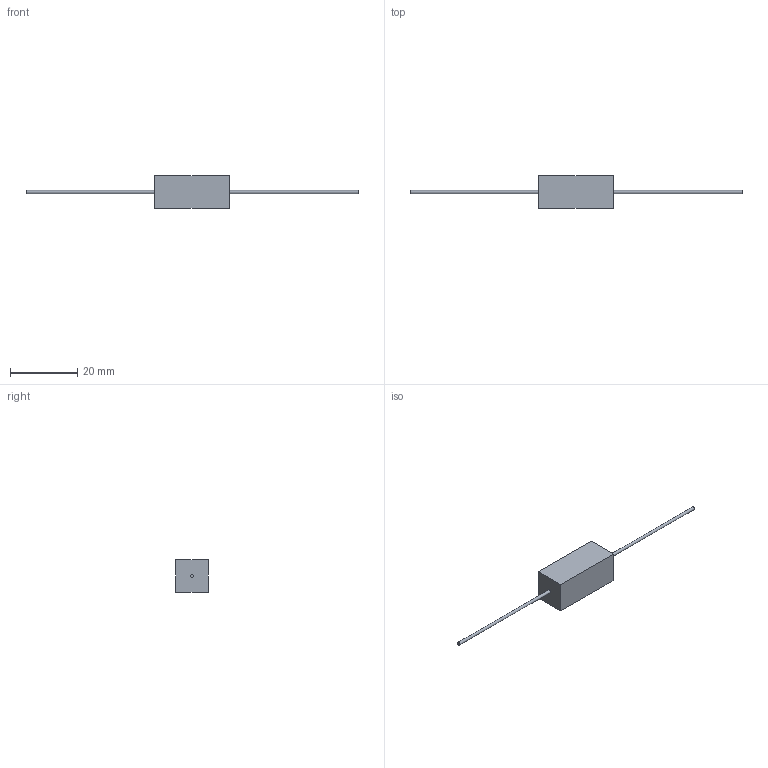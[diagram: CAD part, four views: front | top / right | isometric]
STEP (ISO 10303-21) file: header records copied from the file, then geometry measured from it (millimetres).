
FILE_DESCRIPTION(/* description */ (''),/* implementation_level */ '2;1');
FILE_NAME(/* name */ 'C:\Users\mulla\Documents\SEI Models\Inventor Files\WCB_WCBF_NWCB\WCB5_stp.stp',/* time_stamp */ '2019-07-04T16:17:29-04:00',/* author */ ('mulla'),/* organization */ (''),/* preprocessor_version */ 'ST-DEVELOPER v16.1',/* originating_system */ 'Autodesk Inventor 2016',/* authorisation */ '');
FILE_SCHEMA (('AUTOMOTIVE_DESIGN { 1 0 10303 214 3 1 1 }'));
Length unit declared in the file: millimetre
Products named in the file (1): WCB5
Bounding box: 98.43 x 9.53 x 9.53 mm (x, y, z)
Volume: 2068.5 mm3; surface area: 1249.5 mm2
Topology: 3 solids, 3 shells, 12 faces, 18 edges, 12 vertices
Faces by surface type: plane 10, cylinder 2
Full cylindrical faces by diameter (mm): 0.91 x2
Entity records: 304 total; most frequent: DIRECTION 46, CARTESIAN_POINT 41, ORIENTED_EDGE 32, AXIS2_PLACEMENT_3D 17, EDGE_CURVE 16, STYLED_ITEM 15, EDGE_LOOP 14, FACE_OUTER_BOUND 12
